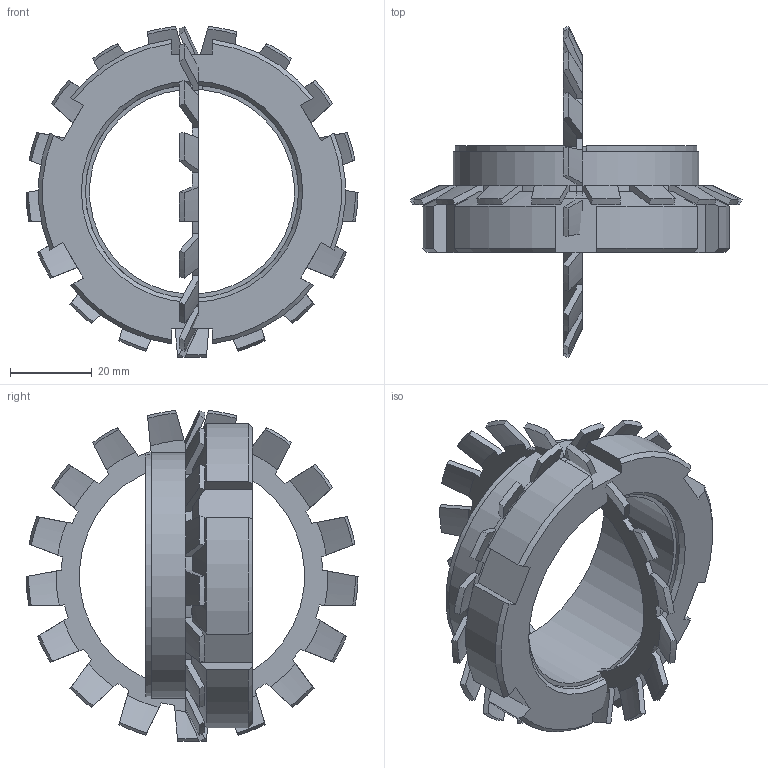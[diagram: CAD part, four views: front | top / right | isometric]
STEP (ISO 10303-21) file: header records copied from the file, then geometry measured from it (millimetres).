
FILE_DESCRIPTION( ( 'Unknown' ), '1' );
FILE_NAME( 'C:/Dokumente und Einstellungen/Sven/Desktop/homepage/cad - homepage/KBS51/KBS 51 - 50 x 60.stp', 'Unknown', ( 'Unknown' ), ( 'Unknown' ), 'XStep 1.0', 'Unknown', ' ' );
FILE_SCHEMA( ( 'automotive_design' ) );
Length unit declared in the file: millimetre
Products named in the file (3): Assem1; KBS 51 - 50 x 60; 08570118_locking_plate_din_5406_mb_11_2_14a
Bounding box: 81 x 81 x 80.79 mm (x, y, z)
Volume: 84422 mm3; surface area: 38207.8 mm2
Topology: 4 solids, 4 shells, 312 faces, 896 edges, 592 vertices
Faces by surface type: plane 136, cone 122, cylinder 54
Full cylindrical faces by diameter (mm): 52 x2, 60 x2
Entity records: 7614 total; most frequent: CARTESIAN_POINT 1141, ORIENTED_EDGE 884, DIRECTION 830, EDGE_CURVE 442, STYLED_ITEM 426, PRESENTATION_STYLE_ASSIGNMENT 426, COLOUR_RGB 426, AXIS2_PLACEMENT_3D 327
